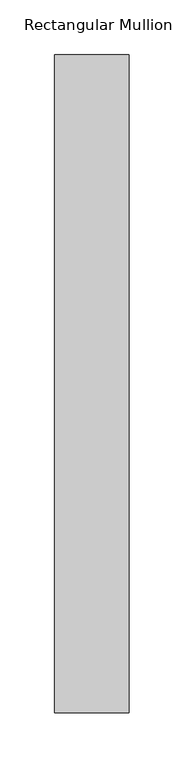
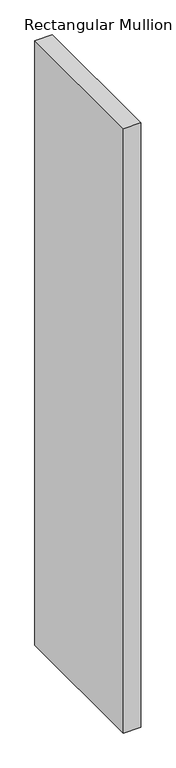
"""IFC4 building model written with IfcOpenShell, lengths in millimetres: member geometry, Rectangular Mullion : DucoSun Cubic Design louvre 600."""

from ifc_helpers import new_model, si_unit, frame, origin, place, context, project, spatial, polyline, outline, extrude, source, transform, mapped, element, save


def rectangular_mullion_6f729acb(model_context):
    return source(origin(), model_context, "Body", "SweptSolid", [
        extrude(outline(polyline([(-68.0, 600.0), (0.0, 600.0), (0.0, 0.0), (-68.0, 0.0), (-68.0, 600.0)])), frame((0.0, 0.0, -2500.0), z_axis=(0.0, 0.0, 1.0), x_axis=(1.0, 0.0, 0.0)), (0.0, 0.0, 1.0), 2500.0),
    ])


if __name__ == "__main__":
    model = new_model("IFC4")
    model_context = context("Model", 3, world=origin())
    ifc_project = project(units=[si_unit("LENGTHUNIT", "METRE", prefix="MILLI")], contexts=[model_context])
    site = spatial("IfcSite", under=ifc_project)
    building = spatial("IfcBuilding", under=site)
    placement = place(None, origin())
    rectangular_mullion_shape = rectangular_mullion_6f729acb(model_context)
    element("IfcMember", 1, ObjectType="Rectangular Mullion : DucoSun Cubic Design louvre 600", at=placement, inside=building, context=model_context, shape_type="MappedRepresentation", body=[
        mapped(rectangular_mullion_shape, transform((0.0, 0.0, 0.0), x_axis=(1.0, 0.0, 0.0), y_axis=(0.0, 1.0, 0.0), z_axis=(0.0, 0.0, 1.0))),
    ])
    save(model, "model.ifc")
